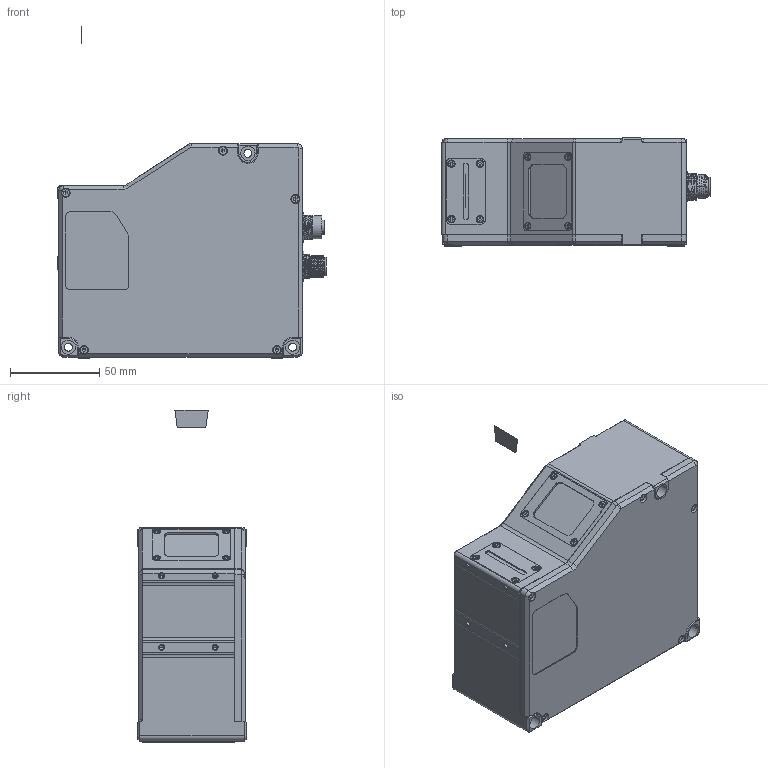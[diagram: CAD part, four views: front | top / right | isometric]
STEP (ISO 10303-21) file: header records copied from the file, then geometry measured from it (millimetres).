
FILE_DESCRIPTION((''),'2;1');
FILE_NAME('00_ALL_DP3062-01H_3K_ASM','2023-12-19T15:17:16',('duhuaiyuan'),(''),'CREO PARAMETRIC BY PTC INC, 2020044','CREO PARAMETRIC BY PTC INC, 2020044','');
FILE_SCHEMA(('CONFIG_CONTROL_DESIGN','SHAPE_APPEARANCE_LAYERS_GROUPS'));
Products named in the file (17): WK_3062_3K; DE-19-002105; DE-19-002106; MV-24011_ASM; DE-14-027958; DE-18-000119; DE-20-013982_ASM; DE-14-038796; DE-18-000141; JGLGPZJ_2060_ASM; DE-14-005311; SC-KM2X4-H-B; WKZJ_3062_3K_ASM; DB_3062_3K; DBZJ_3062_3K_ASM; SC-AM2_5X8NL-BNI-SCM435-GB70_1; 00_ALL_DP3062-01H_3K_ASM
Assembly tree (27 placements, depth 4):
  00_ALL_DP3062-01H_3K_ASM
    WKZJ_3062_3K_ASM
      WK_3062_3K
      MV-24011_ASM
        DE-19-002105
        DE-19-002106
      DE-20-013982_ASM
        DE-14-027958
        DE-18-000119
      JGLGPZJ_2060_ASM
        DE-14-038796
        DE-18-000141
      DE-14-005311
      SC-KM2X4-H-B  x8
    DBZJ_3062_3K_ASM
      DB_3062_3K
    SC-AM2_5X8NL-BNI-SCM435-GB70_1  x5
Bounding box: 150.4 x 60.5 x 185.8 mm (x, y, z)
Volume: 885675.9 mm3; surface area: 110969.6 mm2
Topology: 47 solids, 87 shells, 1928 faces, 5070 edges, 3296 vertices
Faces by surface type: cylinder 783, plane 642, cone 279, bspline 104, torus 80, sphere 40
Entity records: 83740 total; most frequent: CARTESIAN_POINT 22766, DIRECTION 8998, ORIENTED_EDGE 8742, EDGE_CURVE 4422, PRESENTATION_STYLE_ASSIGNMENT 3930, STYLED_ITEM 3784, AXIS2_PLACEMENT_3D 3558, VERTEX_POINT 2952
